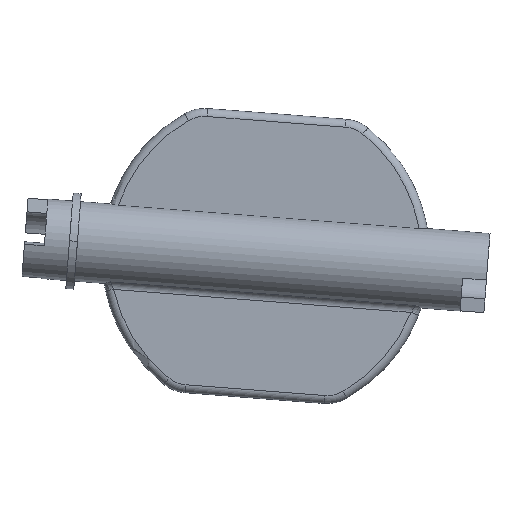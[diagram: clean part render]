
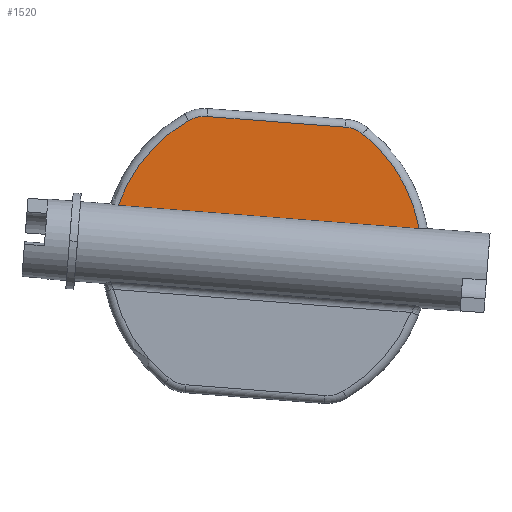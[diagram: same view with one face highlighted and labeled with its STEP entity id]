
A CAD part, front view. The second image highlights one B-rep face of the part: STEP entity #1520.
In plain terms, the highlighted planar face has unit normal (0, -1, 0).
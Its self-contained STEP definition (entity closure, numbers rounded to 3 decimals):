
#1=DIRECTION('',(0.997,0.,-0.077));
#2=VECTOR('',#1,37.879);
#3=CARTESIAN_POINT('',(696.221,-1.,138.644));
#4=LINE('',#3,#2);
#5=CARTESIAN_POINT('',(714.725,-1.,132.296));
#6=DIRECTION('',(0.,1.,0.));
#7=DIRECTION('',(-0.946,0.,0.325));
#8=AXIS2_PLACEMENT_3D('',#5,#6,#7);
#10=CARTESIAN_POINT('',(707.026,-1.,145.821));
#11=DIRECTION('',(0.,1.,0.));
#12=DIRECTION('',(-0.495,0.,0.869));
#13=AXIS2_PLACEMENT_3D('',#10,#11,#12);
#15=DIRECTION('',(0.997,0.,-0.077));
#16=VECTOR('',#15,17.442);
#17=CARTESIAN_POINT('',(707.336,-1.,149.809));
#18=LINE('',#17,#16);
#19=CARTESIAN_POINT('',(724.416,-1.,144.472));
#20=DIRECTION('',(0.,1.,0.));
#21=DIRECTION('',(0.077,0.,0.997));
#22=AXIS2_PLACEMENT_3D('',#19,#20,#21);
#24=CARTESIAN_POINT('',(714.725,-1.,132.296));
#25=DIRECTION('',(0.,1.,0.));
#26=DIRECTION('',(0.623,0.,0.782));
#27=AXIS2_PLACEMENT_3D('',#24,#25,#26);
#1318=CARTESIAN_POINT('',(696.221,-1.,138.644));
#1319=CARTESIAN_POINT('',(733.986,-1.,135.716));
#1320=VERTEX_POINT('',#1318);
#1321=VERTEX_POINT('',#1319);
#1493=CARTESIAN_POINT('',(726.907,-1.,147.602));
#1494=VERTEX_POINT('',#1493);
#1495=CARTESIAN_POINT('',(724.726,-1.,148.461));
#1496=VERTEX_POINT('',#1495);
#1497=CARTESIAN_POINT('',(707.336,-1.,149.809));
#1498=VERTEX_POINT('',#1497);
#1499=CARTESIAN_POINT('',(705.048,-1.,149.297));
#1500=VERTEX_POINT('',#1499);
#1501=CARTESIAN_POINT('',(0.,-1.,0.));
#1502=DIRECTION('',(0.,1.,0.));
#1503=DIRECTION('',(1.,0.,0.));
#1504=AXIS2_PLACEMENT_3D('',#1501,#1502,#1503);
#1505=PLANE('',#1504);
#1507=ORIENTED_EDGE('',*,*,#1506,.F.);
#1509=ORIENTED_EDGE('',*,*,#1508,.T.);
#1511=ORIENTED_EDGE('',*,*,#1510,.T.);
#1513=ORIENTED_EDGE('',*,*,#1512,.T.);
#1515=ORIENTED_EDGE('',*,*,#1514,.T.);
#1517=ORIENTED_EDGE('',*,*,#1516,.T.);
#1518=EDGE_LOOP('',(#1507,#1509,#1511,#1513,#1515,#1517));
#1519=FACE_OUTER_BOUND('',#1518,.F.);
#1520=ADVANCED_FACE('',(#1519),#1505,.F.);
#9=CIRCLE('',#8,19.563);
#14=CIRCLE('',#13,4.);
#23=CIRCLE('',#22,4.);
#28=CIRCLE('',#27,19.563);
#1506=EDGE_CURVE('',#1320,#1321,#4,.T.);
#1508=EDGE_CURVE('',#1320,#1500,#9,.T.);
#1510=EDGE_CURVE('',#1500,#1498,#14,.T.);
#1512=EDGE_CURVE('',#1498,#1496,#18,.T.);
#1514=EDGE_CURVE('',#1496,#1494,#23,.T.);
#1516=EDGE_CURVE('',#1494,#1321,#28,.T.);
